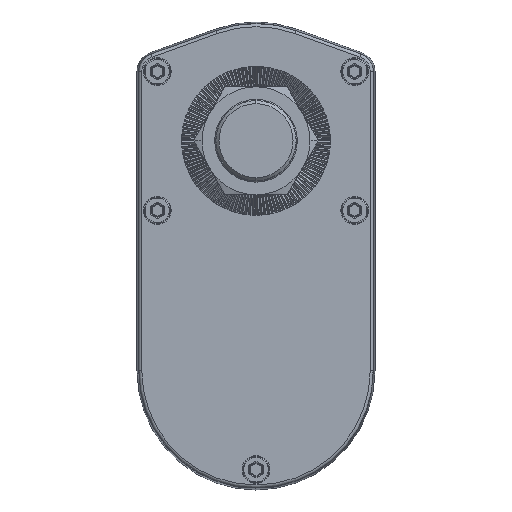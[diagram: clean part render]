
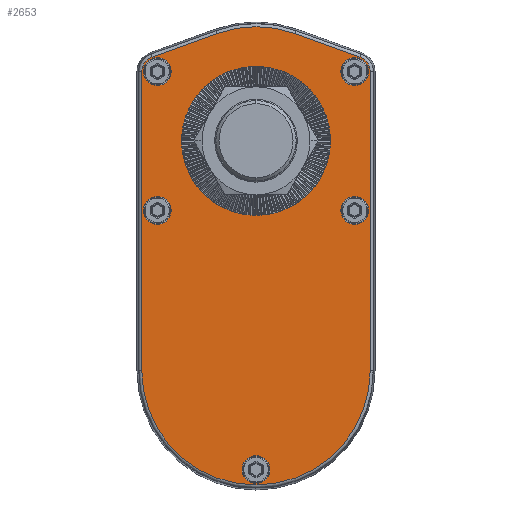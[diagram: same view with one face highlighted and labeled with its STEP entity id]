
A CAD part, top view. The second image highlights one B-rep face of the part: STEP entity #2653.
In plain terms, the highlighted planar face has unit normal (0, 0, 1).
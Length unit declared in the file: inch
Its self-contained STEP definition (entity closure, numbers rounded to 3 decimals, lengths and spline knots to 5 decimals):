
#2653=ADVANCED_FACE('NONE',(#5352,#5353,#5354,#5355,#5356,#5357,#5358),#5359,.F.);
#5352=FACE_OUTER_BOUND('',#11599,.T.);
#5353=FACE_BOUND('',#11600,.T.);
#5354=FACE_BOUND('',#11601,.T.);
#5355=FACE_BOUND('',#11602,.T.);
#5356=FACE_BOUND('',#11603,.T.);
#5357=FACE_BOUND('',#11604,.T.);
#5358=FACE_BOUND('',#11605,.T.);
#5359=PLANE('',#11606);
#11599=EDGE_LOOP('',(#19325,#19326,#19327,#19328,#19329,#19330,#19331,#19332));
#11600=EDGE_LOOP('',(#19333,#19334));
#11601=EDGE_LOOP('',(#19335,#19336));
#11602=EDGE_LOOP('',(#19337,#19338));
#11603=EDGE_LOOP('',(#19339,#19340));
#11604=EDGE_LOOP('',(#19341,#19342));
#11605=EDGE_LOOP('',(#19343,#19344));
#11606=AXIS2_PLACEMENT_3D('',#19345,#19346,#19347);
#19325=ORIENTED_EDGE('',*,*,#22297,.T.);
#19326=ORIENTED_EDGE('',*,*,#22151,.T.);
#19327=ORIENTED_EDGE('',*,*,#21849,.T.);
#19328=ORIENTED_EDGE('',*,*,#22304,.T.);
#19329=ORIENTED_EDGE('',*,*,#20217,.T.);
#19330=ORIENTED_EDGE('',*,*,#19631,.T.);
#19331=ORIENTED_EDGE('',*,*,#21214,.T.);
#19332=ORIENTED_EDGE('',*,*,#21649,.T.);
#19333=ORIENTED_EDGE('',*,*,#22780,.F.);
#19334=ORIENTED_EDGE('',*,*,#22708,.F.);
#19335=ORIENTED_EDGE('',*,*,#21204,.F.);
#19336=ORIENTED_EDGE('',*,*,#21717,.F.);
#19337=ORIENTED_EDGE('',*,*,#20633,.F.);
#19338=ORIENTED_EDGE('',*,*,#20782,.F.);
#19339=ORIENTED_EDGE('',*,*,#20682,.F.);
#19340=ORIENTED_EDGE('',*,*,#21671,.F.);
#19341=ORIENTED_EDGE('',*,*,#22097,.F.);
#19342=ORIENTED_EDGE('',*,*,#21530,.F.);
#19343=ORIENTED_EDGE('',*,*,#22681,.F.);
#19344=ORIENTED_EDGE('',*,*,#21987,.F.);
#19345=CARTESIAN_POINT('',(-0.42208,1.80957,13.33858));
#19346=DIRECTION('',(0.0,0.0,-1.0));
#19347=DIRECTION('',(0.0,-1.0,0.0));
#19631=EDGE_CURVE('NONE',#22841,#22845,#22847,.T.);
#20217=EDGE_CURVE('NONE',#23858,#22841,#23859,.T.);
#20633=EDGE_CURVE('NONE',#24539,#24542,#24543,.T.);
#20682=EDGE_CURVE('NONE',#24620,#24623,#24624,.T.);
#20782=EDGE_CURVE('NONE',#24542,#24539,#24778,.T.);
#21204=EDGE_CURVE('NONE',#25413,#25408,#25415,.T.);
#21214=EDGE_CURVE('NONE',#22845,#25425,#25427,.T.);
#21530=EDGE_CURVE('NONE',#25886,#25884,#25888,.T.);
#21649=EDGE_CURVE('NONE',#25425,#26052,#26054,.T.);
#21671=EDGE_CURVE('NONE',#24623,#24620,#26085,.T.);
#21717=EDGE_CURVE('NONE',#25408,#25413,#26144,.T.);
#21849=EDGE_CURVE('NONE',#26317,#26315,#26318,.T.);
#21987=EDGE_CURVE('NONE',#26517,#26392,#26519,.T.);
#22097=EDGE_CURVE('NONE',#25884,#25886,#26652,.T.);
#22151=EDGE_CURVE('NONE',#26720,#26317,#26722,.T.);
#22297=EDGE_CURVE('NONE',#26052,#26720,#26896,.T.);
#22304=EDGE_CURVE('NONE',#26315,#23858,#26903,.T.);
#22681=EDGE_CURVE('NONE',#26392,#26517,#27327,.T.);
#22708=EDGE_CURVE('NONE',#27355,#27357,#27358,.T.);
#22780=EDGE_CURVE('NONE',#27357,#27355,#27434,.T.);
#22841=VERTEX_POINT('NONE',#27521);
#22845=VERTEX_POINT('NONE',#27525);
#22847=CIRCLE('',#27527,1.45738);
#23858=VERTEX_POINT('NONE',#30028);
#23859=LINE('',#30029,#30030);
#24539=VERTEX_POINT('NONE',#31806);
#24542=VERTEX_POINT('',#31810);
#24543=CIRCLE('',#31811,0.17717);
#24620=VERTEX_POINT('NONE',#31997);
#24623=VERTEX_POINT('',#32001);
#24624=CIRCLE('',#32002,0.17717);
#24778=CIRCLE('',#32483,0.17717);
#25408=VERTEX_POINT('',#34090);
#25413=VERTEX_POINT('NONE',#34096);
#25415=CIRCLE('',#34099,0.17717);
#25425=VERTEX_POINT('NONE',#34111);
#25427=LINE('',#34113,#34114);
#25884=VERTEX_POINT('NONE',#35589);
#25886=VERTEX_POINT('',#35592);
#25888=CIRCLE('',#35595,0.17717);
#26052=VERTEX_POINT('NONE',#36145);
#26054=CIRCLE('',#36147,0.19754);
#26085=CIRCLE('',#36210,0.17717);
#26144=CIRCLE('',#36336,0.17717);
#26315=VERTEX_POINT('NONE',#36837);
#26317=VERTEX_POINT('NONE',#36839);
#26318=LINE('',#36840,#36841);
#26392=VERTEX_POINT('NONE',#36981);
#26517=VERTEX_POINT('',#37697);
#26519=CIRCLE('',#37700,0.94882);
#26652=CIRCLE('',#38124,0.17717);
#26720=VERTEX_POINT('NONE',#38353);
#26722=CIRCLE('',#38355,1.45718);
#26896=LINE('',#38888,#38889);
#26903=CIRCLE('',#38924,0.19754);
#27327=CIRCLE('',#40552,0.94882);
#27355=VERTEX_POINT('',#40723);
#27357=VERTEX_POINT('NONE',#40726);
#27358=CIRCLE('',#40727,0.17717);
#27434=CIRCLE('',#40953,0.17717);
#27521=CARTESIAN_POINT('',(0.07342,3.18013,13.33858));
#27525=CARTESIAN_POINT('',(-0.91757,3.18013,13.33858));
#27527=AXIS2_PLACEMENT_3D('',#41014,#41015,#41016);
#30028=CARTESIAN_POINT('',(0.90473,2.87959,13.33858));
#30029=CARTESIAN_POINT('',(0.07342,3.18013,13.33858));
#30030=VECTOR('',#41592,39.37008);
#31806=CARTESIAN_POINT('',(-0.24491,-2.38492,13.33858));
#31810=CARTESIAN_POINT('',(-0.59924,-2.38492,13.33858));
#31811=AXIS2_PLACEMENT_3D('',#41981,#41982,#41983);
#31997=CARTESIAN_POINT('',(-1.50475,0.92216,13.33858));
#32001=CARTESIAN_POINT('',(-1.85908,0.92216,13.33858));
#32002=AXIS2_PLACEMENT_3D('',#42029,#42030,#42031);
#32483=AXIS2_PLACEMENT_3D('',#42156,#42157,#42158);
#34090=CARTESIAN_POINT('',(1.01493,0.92216,13.33858));
#34096=CARTESIAN_POINT('',(0.6606,0.92216,13.33858));
#34099=AXIS2_PLACEMENT_3D('',#42549,#42550,#42551);
#34111=CARTESIAN_POINT('',(-1.74888,2.87959,13.33858));
#34113=CARTESIAN_POINT('',(-1.74888,2.87959,13.33858));
#34114=VECTOR('',#42566,39.37008);
#35589=CARTESIAN_POINT('',(-1.50475,2.69382,13.33858));
#35592=CARTESIAN_POINT('',(-1.85908,2.69382,13.33858));
#35595=AXIS2_PLACEMENT_3D('',#42806,#42807,#42808);
#36145=CARTESIAN_POINT('',(-1.87926,2.69382,13.33858));
#36147=AXIS2_PLACEMENT_3D('',#42871,#42872,#42873);
#36210=AXIS2_PLACEMENT_3D('',#42892,#42893,#42894);
#36336=AXIS2_PLACEMENT_3D('',#42942,#42943,#42944);
#36837=CARTESIAN_POINT('',(1.03511,2.69382,13.33858));
#36839=CARTESIAN_POINT('',(1.03511,-1.12331,13.33858));
#36840=CARTESIAN_POINT('',(1.03511,2.69382,13.33858));
#36841=VECTOR('',#43042,39.37008);
#36981=CARTESIAN_POINT('',(-1.3709,1.80957,13.33858));
#37697=CARTESIAN_POINT('',(0.52674,1.80957,13.33858));
#37700=AXIS2_PLACEMENT_3D('',#43166,#43167,#43168);
#38124=AXIS2_PLACEMENT_3D('',#43227,#43228,#43229);
#38353=CARTESIAN_POINT('',(-1.87926,-1.12331,13.33858));
#38355=AXIS2_PLACEMENT_3D('',#43257,#43258,#43259);
#38888=CARTESIAN_POINT('',(-1.87926,-1.12331,13.33858));
#38889=VECTOR('',#43352,39.37008);
#38924=AXIS2_PLACEMENT_3D('',#43353,#43354,#43355);
#40552=AXIS2_PLACEMENT_3D('',#43525,#43526,#43527);
#40723=CARTESIAN_POINT('',(1.01493,2.69382,13.33858));
#40726=CARTESIAN_POINT('',(0.6606,2.69382,13.33858));
#40727=AXIS2_PLACEMENT_3D('',#43541,#43542,#43543);
#40953=AXIS2_PLACEMENT_3D('',#43567,#43568,#43569);
#41014=CARTESIAN_POINT('',(-0.42208,1.80957,13.33858));
#41015=DIRECTION('',(0.0,0.0,1.0));
#41016=DIRECTION('',(-1.0,0.,0.0));
#41592=DIRECTION('',(-0.94,0.34,0.0));
#41981=CARTESIAN_POINT('',(-0.42208,-2.38492,13.33858));
#41982=DIRECTION('',(0.0,0.0,1.0));
#41983=DIRECTION('',(1.0,0.0,0.0));
#42029=CARTESIAN_POINT('',(-1.68192,0.92216,13.33858));
#42030=DIRECTION('',(0.0,0.0,1.0));
#42031=DIRECTION('',(1.0,0.0,0.0));
#42156=CARTESIAN_POINT('',(-0.42208,-2.38492,13.33858));
#42157=DIRECTION('',(0.0,0.0,1.0));
#42158=DIRECTION('',(1.0,0.0,0.0));
#42549=CARTESIAN_POINT('',(0.83777,0.92216,13.33858));
#42550=DIRECTION('',(0.0,0.0,1.0));
#42551=DIRECTION('',(-1.0,0.0,0.0));
#42566=DIRECTION('',(-0.94,-0.34,-0.0));
#42806=CARTESIAN_POINT('',(-1.68192,2.69382,13.33858));
#42807=DIRECTION('',(0.0,0.0,1.0));
#42808=DIRECTION('',(1.0,0.0,0.0));
#42871=CARTESIAN_POINT('',(-1.68172,2.69382,13.33858));
#42872=DIRECTION('',(0.0,0.0,1.0));
#42873=DIRECTION('',(-1.0,0.0,0.0));
#42892=CARTESIAN_POINT('',(-1.68192,0.92216,13.33858));
#42893=DIRECTION('',(0.0,0.0,1.0));
#42894=DIRECTION('',(1.0,0.0,0.0));
#42942=CARTESIAN_POINT('',(0.83777,0.92216,13.33858));
#42943=DIRECTION('',(0.0,0.0,1.0));
#42944=DIRECTION('',(-1.0,0.0,0.0));
#43042=DIRECTION('',(0.,1.0,0.0));
#43166=CARTESIAN_POINT('',(-0.42208,1.80957,13.33858));
#43167=DIRECTION('',(0.0,0.0,1.0));
#43168=DIRECTION('',(-1.0,0.0,0.0));
#43227=CARTESIAN_POINT('',(-1.68192,2.69382,13.33858));
#43228=DIRECTION('',(0.0,0.0,1.0));
#43229=DIRECTION('',(1.0,0.0,0.0));
#43257=CARTESIAN_POINT('',(-0.42208,-1.12331,13.33858));
#43258=DIRECTION('',(0.0,0.0,1.0));
#43259=DIRECTION('',(-1.0,0.0,0.0));
#43352=DIRECTION('',(0.,-1.0,-0.0));
#43353=CARTESIAN_POINT('',(0.83757,2.69382,13.33858));
#43354=DIRECTION('',(0.0,0.0,1.0));
#43355=DIRECTION('',(-1.0,0.,0.0));
#43525=CARTESIAN_POINT('',(-0.42208,1.80957,13.33858));
#43526=DIRECTION('',(0.0,0.0,1.0));
#43527=DIRECTION('',(-1.0,0.0,0.0));
#43541=CARTESIAN_POINT('',(0.83777,2.69382,13.33858));
#43542=DIRECTION('',(0.0,0.0,1.0));
#43543=DIRECTION('',(-1.0,0.0,0.0));
#43567=CARTESIAN_POINT('',(0.83777,2.69382,13.33858));
#43568=DIRECTION('',(0.0,0.0,1.0));
#43569=DIRECTION('',(-1.0,0.0,0.0));
